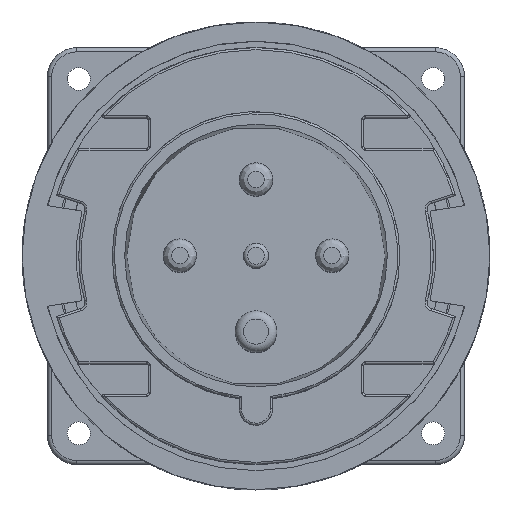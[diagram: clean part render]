
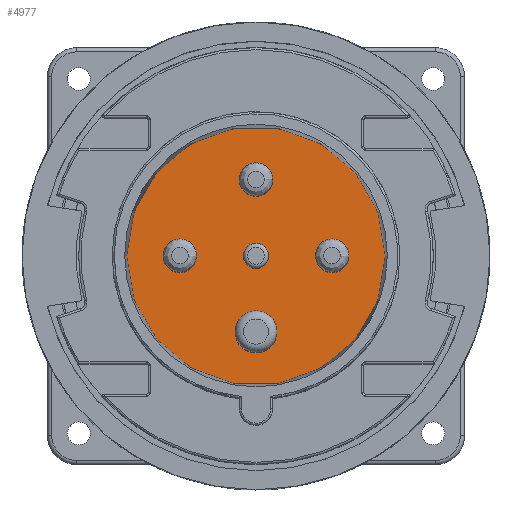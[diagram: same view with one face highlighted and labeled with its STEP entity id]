
A CAD part, top view. The second image highlights one B-rep face of the part: STEP entity #4977.
In plain terms, the highlighted planar face has unit normal (0, 0, 1).
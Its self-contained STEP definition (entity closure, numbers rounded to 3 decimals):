
#4977 = ADVANCED_FACE('',(#4978),#5016,.T.);
#4978 = FACE_BOUND('',#4979,.T.);
#4979 = EDGE_LOOP('',(#4980,#4991,#5000,#5009));
#4980 = ORIENTED_EDGE('',*,*,#4981,.F.);
#4981 = EDGE_CURVE('',#4982,#4984,#4986,.T.);
#4982 = VERTEX_POINT('',#4983);
#4983 = CARTESIAN_POINT('',(0.,31.,0.));
#4984 = VERTEX_POINT('',#4985);
#4985 = CARTESIAN_POINT('',(31.,0.,0.));
#4986 = CIRCLE('',#4987,31.);
#4987 = AXIS2_PLACEMENT_3D('',#4988,#4989,#4990);
#4988 = CARTESIAN_POINT('',(0.,0.,0.));
#4989 = DIRECTION('',(0.,0.,-1.));
#4990 = DIRECTION('',(0.,1.,0.));
#4991 = ORIENTED_EDGE('',*,*,#4992,.F.);
#4992 = EDGE_CURVE('',#4993,#4982,#4995,.T.);
#4993 = VERTEX_POINT('',#4994);
#4994 = CARTESIAN_POINT('',(-31.,0.,0.));
#4995 = CIRCLE('',#4996,31.);
#4996 = AXIS2_PLACEMENT_3D('',#4997,#4998,#4999);
#4997 = CARTESIAN_POINT('',(0.,0.,0.));
#4998 = DIRECTION('',(0.,0.,-1.));
#4999 = DIRECTION('',(-1.,0.,0.));
#5000 = ORIENTED_EDGE('',*,*,#5001,.F.);
#5001 = EDGE_CURVE('',#5002,#4993,#5004,.T.);
#5002 = VERTEX_POINT('',#5003);
#5003 = CARTESIAN_POINT('',(0.,-31.,0.));
#5004 = CIRCLE('',#5005,31.);
#5005 = AXIS2_PLACEMENT_3D('',#5006,#5007,#5008);
#5006 = CARTESIAN_POINT('',(0.,0.,0.));
#5007 = DIRECTION('',(0.,0.,-1.));
#5008 = DIRECTION('',(0.,-1.,0.));
#5009 = ORIENTED_EDGE('',*,*,#5010,.F.);
#5010 = EDGE_CURVE('',#4984,#5002,#5011,.T.);
#5011 = CIRCLE('',#5012,31.);
#5012 = AXIS2_PLACEMENT_3D('',#5013,#5014,#5015);
#5013 = CARTESIAN_POINT('',(0.,0.,0.));
#5014 = DIRECTION('',(0.,0.,-1.));
#5015 = DIRECTION('',(1.,0.,0.));
#5016 = PLANE('',#5017);
#5017 = AXIS2_PLACEMENT_3D('',#5018,#5019,#5020);
#5018 = CARTESIAN_POINT('',(0.,0.,0.));
#5019 = DIRECTION('',(0.,0.,1.));
#5020 = DIRECTION('',(-1.,0.,0.));
